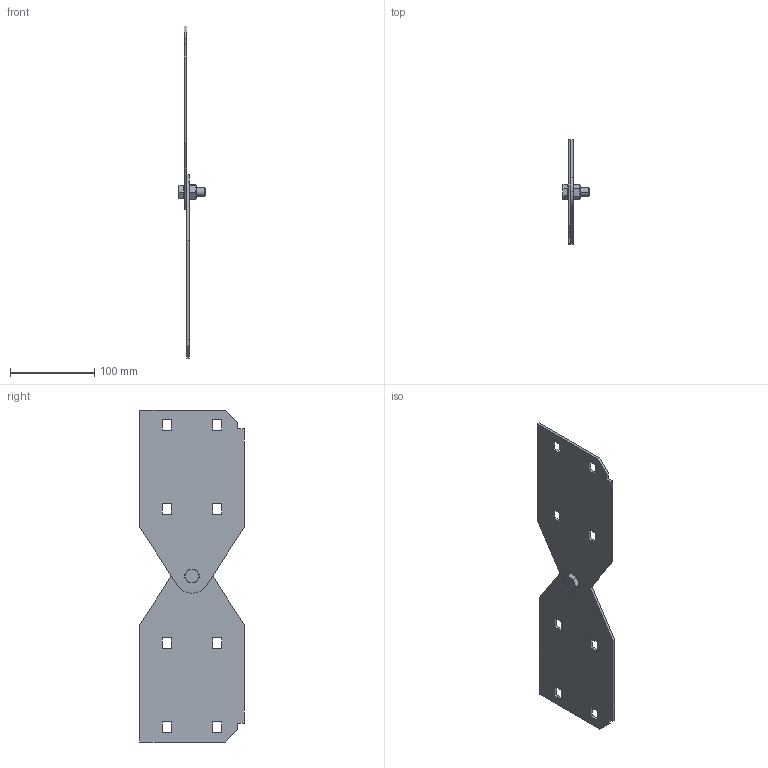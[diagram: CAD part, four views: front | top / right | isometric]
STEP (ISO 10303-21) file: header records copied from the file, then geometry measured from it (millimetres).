
FILE_DESCRIPTION (( 'STEP AP203' ), '1' );
FILE_NAME ('N3 VS.STEP', '2024-09-04T22:30:34', ( '' ), ( '' ), 'SwSTEP 2.0', 'SolidWorks 2023', '' );
FILE_SCHEMA (( 'CONFIG_CONTROL_DESIGN' ));
Length unit declared in the file: millimetre
Products named in the file (4): ISO 4032 - M10; Hex bolt_Hex bolt M10x25; N3 VS; N3VS-Vertical splice plate_N2S
Assembly tree (4 placements, depth 2):
  N3 VS
    N3VS-Vertical splice plate_N2S  x2
    Hex bolt_Hex bolt M10x25
    ISO 4032 - M10
Bounding box: 31.6 x 124 x 394.98 mm (x, y, z)
Volume: 137222.3 mm3; surface area: 95805.1 mm2
Topology: 4 solids, 4 shells, 100 faces, 258 edges, 168 vertices
Faces by surface type: plane 70, cylinder 14, cone 10, torus 6
Entity records: 2676 total; most frequent: CARTESIAN_POINT 567, ORIENTED_EDGE 348, DIRECTION 336, EDGE_CURVE 174, AXIS2_PLACEMENT_3D 113, VERTEX_POINT 112, VECTOR 110, LINE 110
